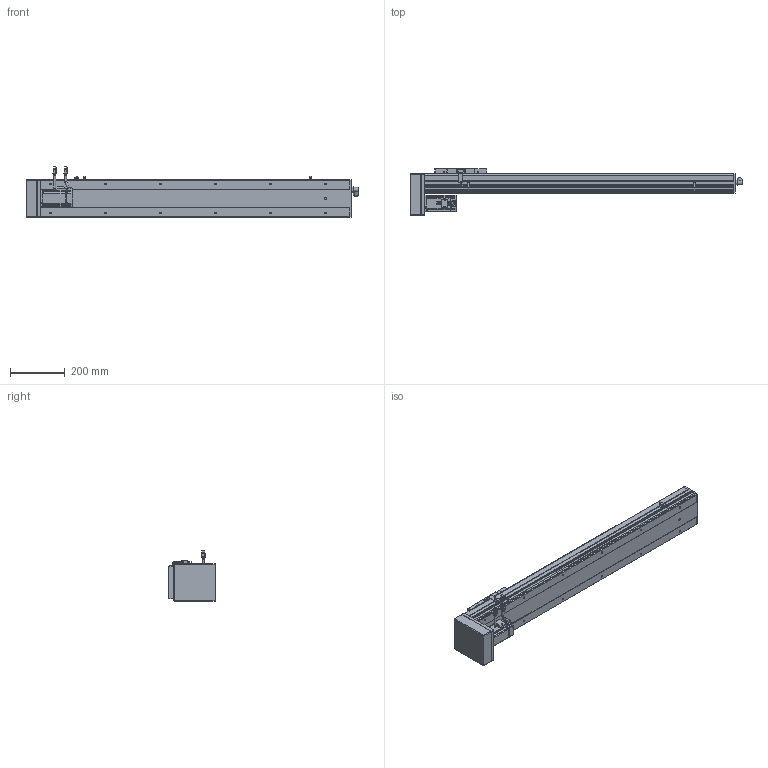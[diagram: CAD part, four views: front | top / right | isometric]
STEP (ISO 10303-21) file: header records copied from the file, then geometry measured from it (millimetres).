
FILE_DESCRIPTION(/* description */ ('STEP AP214'),/* implementation_level */ '2;1');
FILE_NAME(/* name */ 'PSC140-L05-S850-BM-P40-C1-N(0-P)',/* time_stamp */ '2022-06-13T03:21:24+02:00',/* author */ ('License CC BY-ND 4.0'),/* organization */ ('CADENAS'),/* preprocessor_version */ 'ST-DEVELOPER v18.102',/* originating_system */ 'PARTsolutions',/* authorisation */ ' ');
FILE_SCHEMA (('AUTOMOTIVE_DESIGN {1 0 10303 214 3 1 1}'));
Length unit declared in the file: millimetre
Products named in the file (11): PSC140-L05-S850-BM-P40-C1-N(0-P); P40-s2; P40-c2; P40-s1; P40-c1; P40-p1; PSC140-BM-body2; PSC140-sensor; PSC140-BM-SLIDER; PSC140-S850-BM-P40-C1-P_BODY1; PSC140-L05-S850-BM-P40-C1-N(0-P)_dummy
Assembly tree (12 placements, depth 2):
  PSC140-L05-S850-BM-P40-C1-N(0-P)
    P40-s2
    P40-c2
    P40-s1
    P40-c1
    P40-p1
    PSC140-BM-body2
    PSC140-sensor  x3
    PSC140-BM-SLIDER
    PSC140-S850-BM-P40-C1-P_BODY1
    PSC140-L05-S850-BM-P40-C1-N(0-P)_dummy
Bounding box: 1208 x 171.5 x 182.48 mm (x, y, z)
Volume: 12556640.4 mm3; surface area: 728521.1 mm2
Topology: 11 solids, 11 shells, 1238 faces, 3195 edges, 2114 vertices
Faces by surface type: plane 862, cylinder 317, cone 40, torus 19
Full cylindrical faces by diameter (mm): 1 x8, 2.6 x10, 2.8 x3, 3.3 x8, 4.5 x12, 4.6 x3, 4.917 x16, 5 x4, 5.5 x8, 6 x11, 7 x10, 9 x2, 10 x1, 11 x1, 12 x1, 13.74 x1, 14 x1, 16.4 x2, 16.5 x1, 36 x1, 50 x2
Entity records: 34272 total; most frequent: CARTESIAN_POINT 5984, DIRECTION 5765, ORIENTED_EDGE 5562, EDGE_CURVE 2781, LINE 2105, VECTOR 2105, VERTEX_POINT 1934, AXIS2_PLACEMENT_3D 1830
